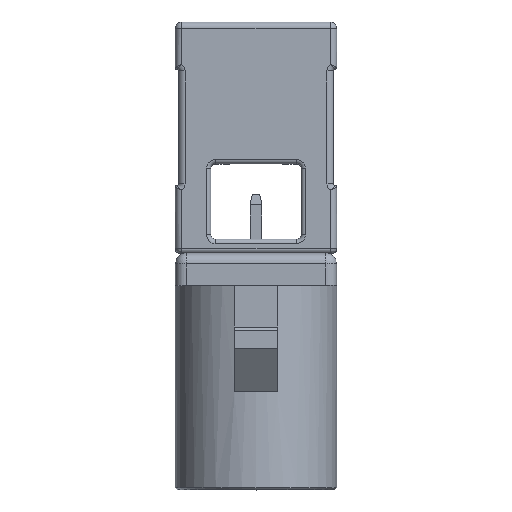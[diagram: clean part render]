
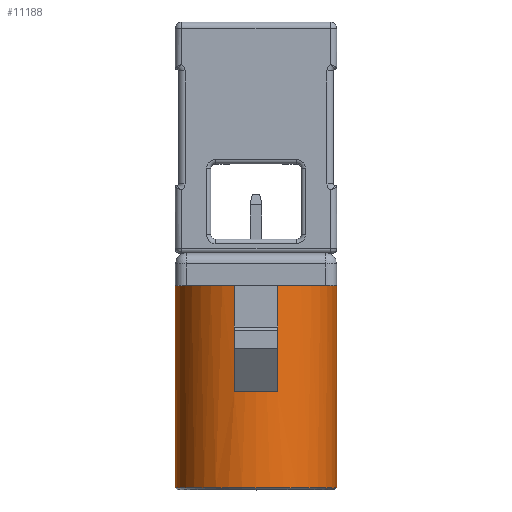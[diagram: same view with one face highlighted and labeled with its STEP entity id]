
A CAD part, top view. The second image highlights one B-rep face of the part: STEP entity #11188.
In plain terms, the highlighted cylindrical face has radius 3.75 mm (diameter 7.5 mm), a partial arc.
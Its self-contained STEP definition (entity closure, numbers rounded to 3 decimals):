
#3073=CARTESIAN_POINT('',(0.,-1.5,0.));
#3074=DIRECTION('',(0.,-1.,0.));
#3075=DIRECTION('',(-0.267,0.,0.964));
#3076=AXIS2_PLACEMENT_3D('',#3073,#3074,#3075);
#3099=CARTESIAN_POINT('',(0.,-1.5,0.));
#3100=DIRECTION('',(0.,-1.,0.));
#3101=DIRECTION('',(1.,0.,0.));
#3102=AXIS2_PLACEMENT_3D('',#3099,#3100,#3101);
#3191=CARTESIAN_POINT('',(0.,-10.9,0.));
#3192=DIRECTION('',(0.,-1.,0.));
#3193=DIRECTION('',(1.,0.,0.));
#3194=AXIS2_PLACEMENT_3D('',#3191,#3192,#3193);
#3196=DIRECTION('',(0.,1.,0.));
#3197=VECTOR('',#3196,9.4);
#3198=CARTESIAN_POINT('',(-3.75,-10.9,
0.));
#3199=LINE('',#3198,#3197);
#3200=DIRECTION('',(0.,-1.,0.));
#3201=VECTOR('',#3200,9.4);
#3202=CARTESIAN_POINT('',(3.75,-1.5,0.));
#3203=LINE('',#3202,#3201);
#3204=DIRECTION('',(0.,1.,0.));
#3205=VECTOR('',#3204,4.95);
#3206=CARTESIAN_POINT('',(-1.,-6.45,3.614));
#3207=LINE('',#3206,#3205);
#3232=DIRECTION('',(0.,-1.,0.));
#3233=VECTOR('',#3232,4.95);
#3234=CARTESIAN_POINT('',(1.,-1.5,3.614));
#3235=LINE('',#3234,#3233);
#3256=CARTESIAN_POINT('',(0.,-6.45,0.));
#3257=DIRECTION('',(0.,-1.,0.));
#3258=DIRECTION('',(0.267,0.,0.964));
#3259=AXIS2_PLACEMENT_3D('',#3256,#3257,#3258);
#5241=CARTESIAN_POINT('',(-3.75,-1.5,0.));
#5242=VERTEX_POINT('',#5241);
#5253=CARTESIAN_POINT('',(-1.,-1.5,3.614));
#5254=VERTEX_POINT('',#5253);
#5265=CARTESIAN_POINT('',(3.75,-1.5,0.));
#5266=VERTEX_POINT('',#5265);
#5267=CARTESIAN_POINT('',(1.,-1.5,3.614));
#5268=VERTEX_POINT('',#5267);
#5279=CARTESIAN_POINT('',(3.75,-10.9,0.));
#5280=CARTESIAN_POINT('',(-3.75,-10.9,0.));
#5281=VERTEX_POINT('',#5279);
#5282=VERTEX_POINT('',#5280);
#5291=CARTESIAN_POINT('',(-1.,-6.45,3.614));
#5292=VERTEX_POINT('',#5291);
#5293=CARTESIAN_POINT('',(1.,-6.45,3.614));
#5294=VERTEX_POINT('',#5293);
#11170=CARTESIAN_POINT('',(0.,-6.2,0.));
#11171=DIRECTION('',(0.,1.,0.));
#11172=DIRECTION('',(-1.,0.,0.));
#11173=AXIS2_PLACEMENT_3D('',#11170,#11171,#11172);
#11174=CYLINDRICAL_SURFACE('',#11173,3.75);
#11175=ORIENTED_EDGE('',*,*,#11157,.T.);
#11176=ORIENTED_EDGE('',*,*,#11092,.T.);
#11177=ORIENTED_EDGE('',*,*,#10913,.F.);
#11179=ORIENTED_EDGE('',*,*,#11178,.F.);
#11181=ORIENTED_EDGE('',*,*,#11180,.F.);
#11183=ORIENTED_EDGE('',*,*,#11182,.F.);
#11184=ORIENTED_EDGE('',*,*,#10981,.F.);
#11185=ORIENTED_EDGE('',*,*,#11088,.T.);
#11186=EDGE_LOOP('',(#11175,#11176,#11177,#11179,#11181,#11183,#11184,#11185));
#11187=FACE_OUTER_BOUND('',#11186,.F.);
#3077=CIRCLE('',#3076,3.75);
#3103=CIRCLE('',#3102,3.75);
#3195=CIRCLE('',#3194,3.75);
#3260=CIRCLE('',#3259,3.75);
#10913=EDGE_CURVE('',#5254,#5242,#3077,.T.);
#10981=EDGE_CURVE('',#5266,#5268,#3103,.T.);
#11088=EDGE_CURVE('',#5266,#5281,#3203,.T.);
#11092=EDGE_CURVE('',#5282,#5242,#3199,.T.);
#11157=EDGE_CURVE('',#5281,#5282,#3195,.T.);
#11178=EDGE_CURVE('',#5292,#5254,#3207,.T.);
#11180=EDGE_CURVE('',#5294,#5292,#3260,.T.);
#11182=EDGE_CURVE('',#5268,#5294,#3235,.T.);
#11188=ADVANCED_FACE('',(#11187),#11174,.T.);
